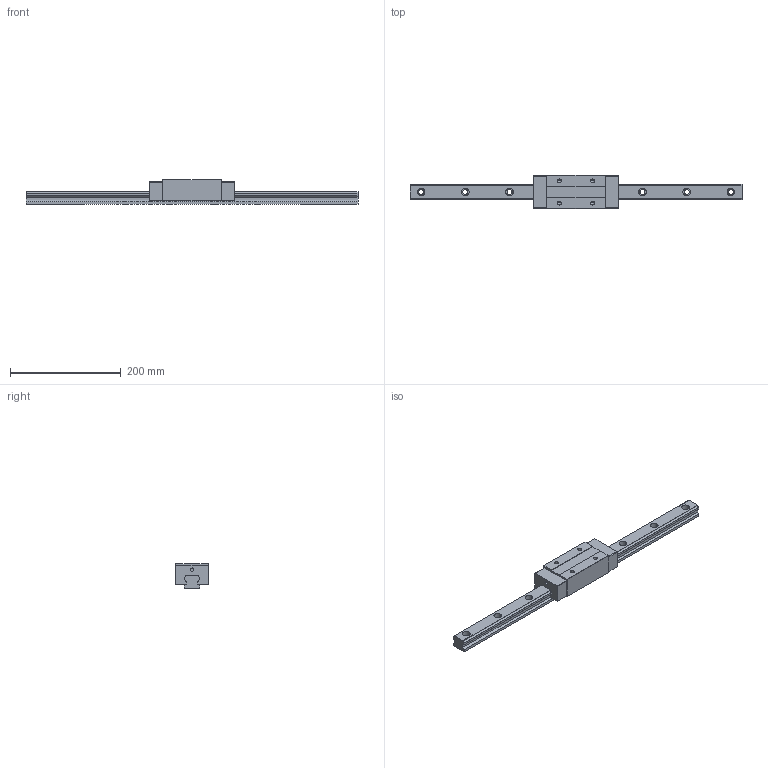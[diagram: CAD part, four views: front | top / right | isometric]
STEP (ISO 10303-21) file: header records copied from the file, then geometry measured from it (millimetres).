
FILE_DESCRIPTION (( 'STEP AP203' ), '1' );
FILE_NAME ('TRH30VE-WZ-§ï.STEP', '2023-08-29T07:17:01', ( '' ), ( '' ), 'SwSTEP 2.0', 'SolidWorks 2022', '' );
FILE_SCHEMA (( 'CONFIG_CONTROL_DESIGN' ));
Length unit declared in the file: millimetre
Products named in the file (1): TRH30VE-WZ-改
Bounding box: 600 x 60 x 45 mm (x, y, z)
Volume: 593617.1 mm3; surface area: 104123.3 mm2
Topology: 1 solids, 1 shells, 170 faces, 464 edges, 300 vertices
Faces by surface type: cylinder 80, plane 74, cone 16
Entity records: 5465 total; most frequent: DIRECTION 966, CARTESIAN_POINT 927, ORIENTED_EDGE 912, EDGE_CURVE 456, AXIS2_PLACEMENT_3D 339, VERTEX_POINT 300, LINE 288, VECTOR 288
